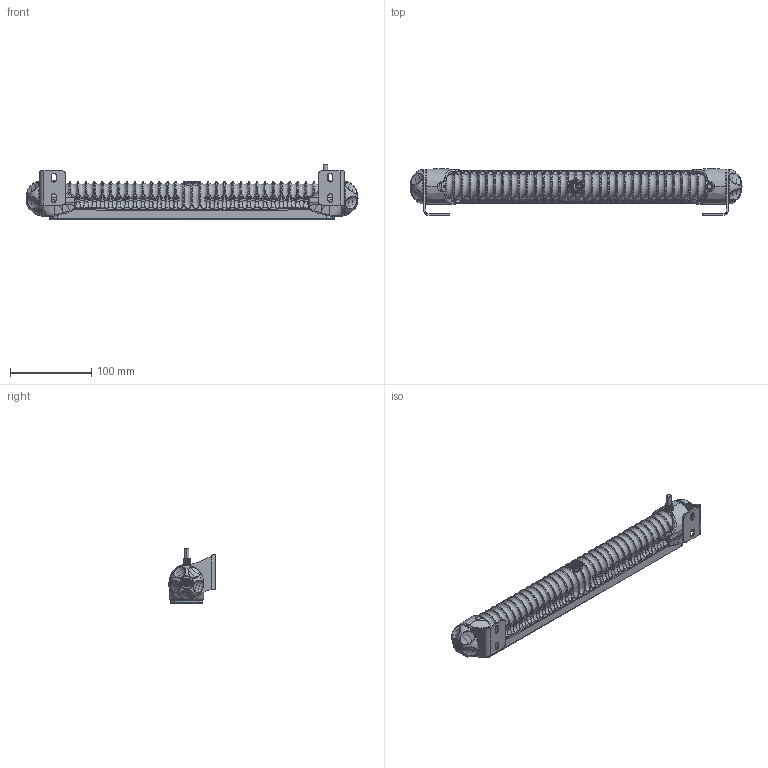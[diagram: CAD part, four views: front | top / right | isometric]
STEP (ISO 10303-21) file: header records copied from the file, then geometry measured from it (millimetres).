
FILE_DESCRIPTION(('CATIA V5 STEP Exchange','CAx-IF Rec.Pracs.--- Model Styling and Organization---1.5--- 2016-08-15','CAx-IF Rec.Pracs.---Supplemental Geometry---1.0---2011-11-01','CAx-IF Rec.Pracs.--- Composite Materials ---1.1---2010-07-15'),'2;1');
FILE_NAME('E:\tmp\ddx\2011218\HELLA_3D_data_LED_Light_Bar_350_1GJ-958-040-50.stp','2022-01-18T07:30:12+00:00',('none'),('none'),'CATIA Version 5-6 Release 2020 SP3 HF9','CATIA V5 STEP AP214 Edition 3 v2','none');
FILE_SCHEMA(('AUTOMOTIVE_DESIGN { 1 0 10303 214 3 1 1 1 }'));
Products named in the file (1): 10002561710_D10_001
Bounding box: 408.08 x 57.02 x 68 mm (x, y, z)
Volume: 571780.3 mm3; surface area: 116642.7 mm2
Topology: 15 solids, 15 shells, 5502 faces, 13634 edges, 7971 vertices
Faces by surface type: bspline 4143, plane 437, cylinder 304, torus 296, sphere 170, cone 152
Entity records: 457444 total; most frequent: CARTESIAN_POINT 371181, ORIENTED_EDGE 26826, EDGE_CURVE 13413, B_SPLINE_CURVE_WITH_KNOTS 10380, VERTEX_POINT 7971, EDGE_LOOP 5564, ADVANCED_FACE 5502, OVER_RIDING_STYLED_ITEM 5502
